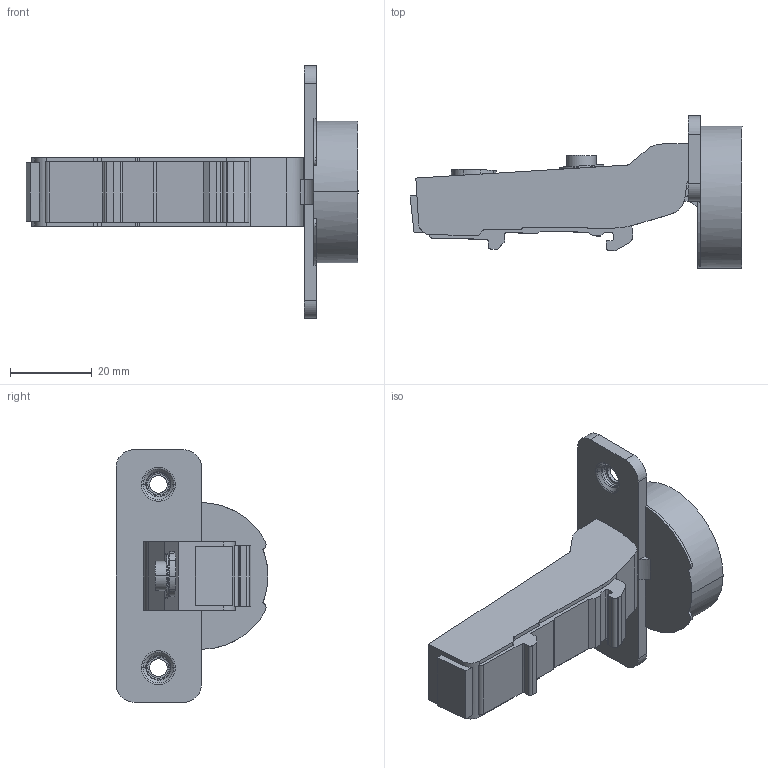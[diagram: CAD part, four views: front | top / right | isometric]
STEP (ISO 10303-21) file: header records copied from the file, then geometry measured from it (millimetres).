
FILE_DESCRIPTION (( 'STEP AP203' ), '1' );
FILE_NAME ('C85B6A5F(DTC3D close).STEP', '2021-04-09T05:36:52', ( '' ), ( '' ), 'SwSTEP 2.0', 'SolidWorks 2018', '' );
FILE_SCHEMA (( 'CONFIG_CONTROL_DESIGN' ));
Length unit declared in the file: millimetre
Products named in the file (1): C85B6A5F(DTC3D close)
Bounding box: 81.48 x 37.3 x 62 mm (x, y, z)
Surface area: 10142.7 mm2 (no closed solid volume)
Topology: 0 solids, 2 shells, 156 faces, 438 edges, 289 vertices
Faces by surface type: plane 68, cylinder 66, torus 12, bspline 6, cone 4
Entity records: 6816 total; most frequent: CARTESIAN_POINT 3580, ORIENTED_EDGE 872, EDGE_CURVE 438, B_SPLINE_CURVE_WITH_KNOTS 430, DIRECTION 312, VERTEX_POINT 289, EDGE_LOOP 167, ADVANCED_FACE 156
